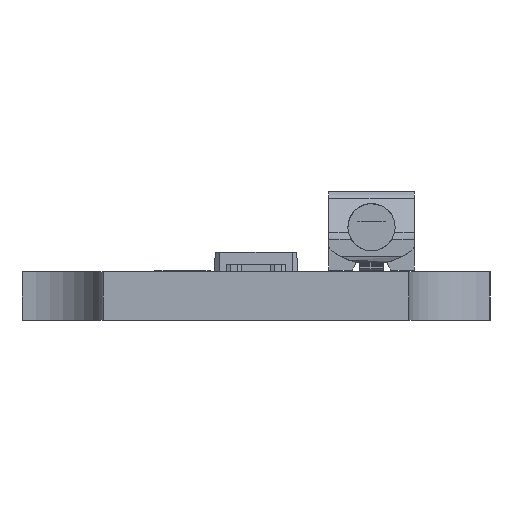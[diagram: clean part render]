
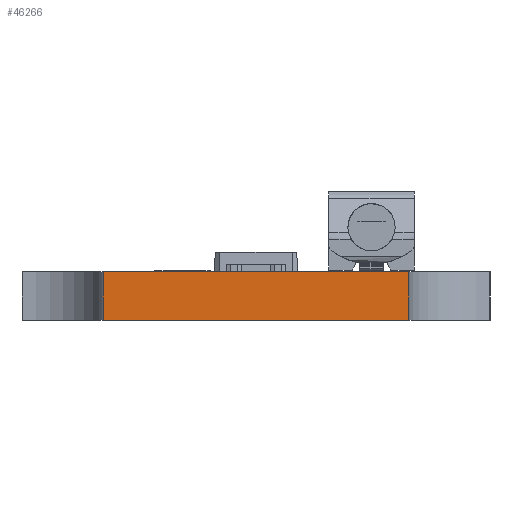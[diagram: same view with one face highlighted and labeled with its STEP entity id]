
A CAD part, left-side view. The second image highlights one B-rep face of the part: STEP entity #46266.
In plain terms, the highlighted planar face has unit normal (-1, 0, 0).
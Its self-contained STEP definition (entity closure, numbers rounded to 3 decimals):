
#41=DIRECTION('',(0.,-1.,0.));
#42=VECTOR('',#41,10.3);
#43=CARTESIAN_POINT('',(-279.8,5.15,1.65));
#44=LINE('',#43,#42);
#10627=DIRECTION('',(0.,1.,0.));
#10628=VECTOR('',#10627,10.3);
#10629=CARTESIAN_POINT('',(-279.8,-5.15,0.));
#10630=LINE('',#10629,#10628);
#10752=DIRECTION('',(0.,0.,1.));
#10753=VECTOR('',#10752,1.65);
#10754=CARTESIAN_POINT('',(-279.8,5.15,0.));
#10755=LINE('',#10754,#10753);
#10756=DIRECTION('',(0.,0.,-1.));
#10757=VECTOR('',#10756,1.65);
#10758=CARTESIAN_POINT('',(-279.8,-5.15,1.65));
#10759=LINE('',#10758,#10757);
#33327=CARTESIAN_POINT('',(-279.8,5.15,1.65));
#33328=CARTESIAN_POINT('',(-279.8,-5.15,1.65));
#33329=VERTEX_POINT('',#33327);
#33330=VERTEX_POINT('',#33328);
#33371=CARTESIAN_POINT('',(-279.8,-5.15,0.));
#33372=CARTESIAN_POINT('',(-279.8,5.15,0.));
#33373=VERTEX_POINT('',#33371);
#33374=VERTEX_POINT('',#33372);
#46254=CARTESIAN_POINT('',(-279.8,5.15,1.65));
#46255=DIRECTION('',(-1.,0.,0.));
#46256=DIRECTION('',(0.,0.,1.));
#46257=AXIS2_PLACEMENT_3D('',#46254,#46255,#46256);
#46258=PLANE('',#46257);
#46260=ORIENTED_EDGE('',*,*,#46259,.T.);
#46261=ORIENTED_EDGE('',*,*,#45952,.T.);
#46262=ORIENTED_EDGE('',*,*,#46248,.T.);
#46263=ORIENTED_EDGE('',*,*,#41499,.T.);
#46264=EDGE_LOOP('',(#46260,#46261,#46262,#46263));
#46265=FACE_OUTER_BOUND('',#46264,.F.);
#46266=ADVANCED_FACE('',(#46265),#46258,.T.);
#41499=EDGE_CURVE('',#33329,#33330,#44,.T.);
#45952=EDGE_CURVE('',#33373,#33374,#10630,.T.);
#46248=EDGE_CURVE('',#33374,#33329,#10755,.T.);
#46259=EDGE_CURVE('',#33330,#33373,#10759,.T.);
